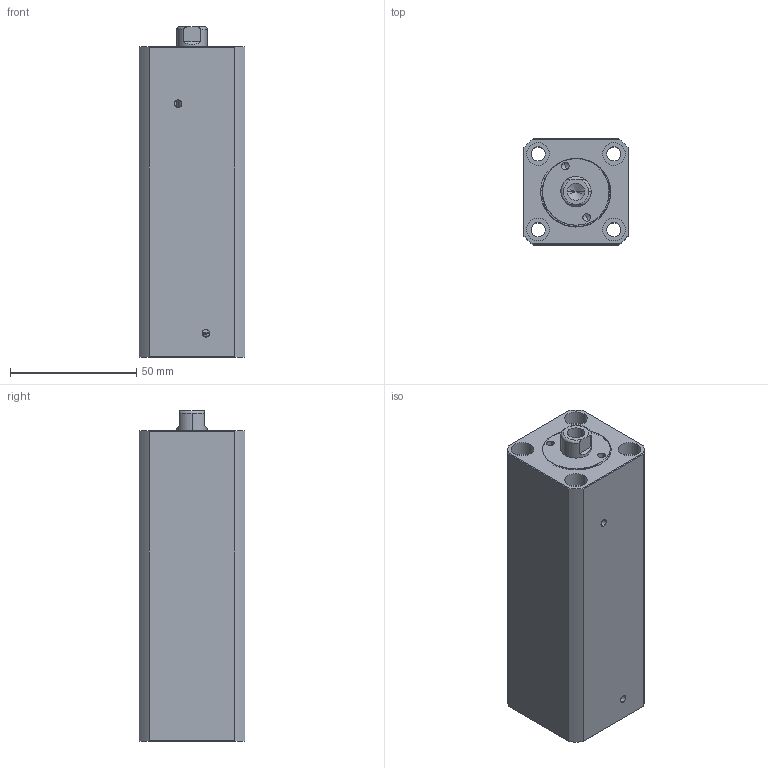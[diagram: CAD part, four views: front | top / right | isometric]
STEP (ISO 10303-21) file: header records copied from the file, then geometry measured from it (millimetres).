
FILE_DESCRIPTION (( 'STEP AP214' ), '1' );
FILE_NAME ('chtb-sdmb20x80n_asm.STEP', '2018-05-18T08:30:07', ( 'Windows' ), ( 'Microsoft' ), 'SwSTEP 2.0', 'SolidWorks 2015', '' );
FILE_SCHEMA (( 'AUTOMOTIVE_DESIGN' ));
Length unit declared in the file: millimetre
Products named in the file (4): CHTB-SDMB20X80NBT; chtb-sdmb20x80n_asm; QG_3; CHTB-SDMB20X80NHSG
Assembly tree (3 placements, depth 2):
  chtb-sdmb20x80n_asm
    CHTB-SDMB20X80NBT
    CHTB-SDMB20X80NHSG
    QG_3
Bounding box: 42 x 42 x 131 mm (x, y, z)
Volume: 181424 mm3; surface area: 51325.6 mm2
Topology: 3 solids, 3 shells, 201 faces, 535 edges, 354 vertices
Faces by surface type: cylinder 106, plane 43, torus 25, bspline 21, cone 6
Entity records: 11558 total; most frequent: CARTESIAN_POINT 6663, ORIENTED_EDGE 1058, DIRECTION 922, EDGE_CURVE 529, AXIS2_PLACEMENT_3D 388, VERTEX_POINT 354, EDGE_LOOP 239, CIRCLE 202
